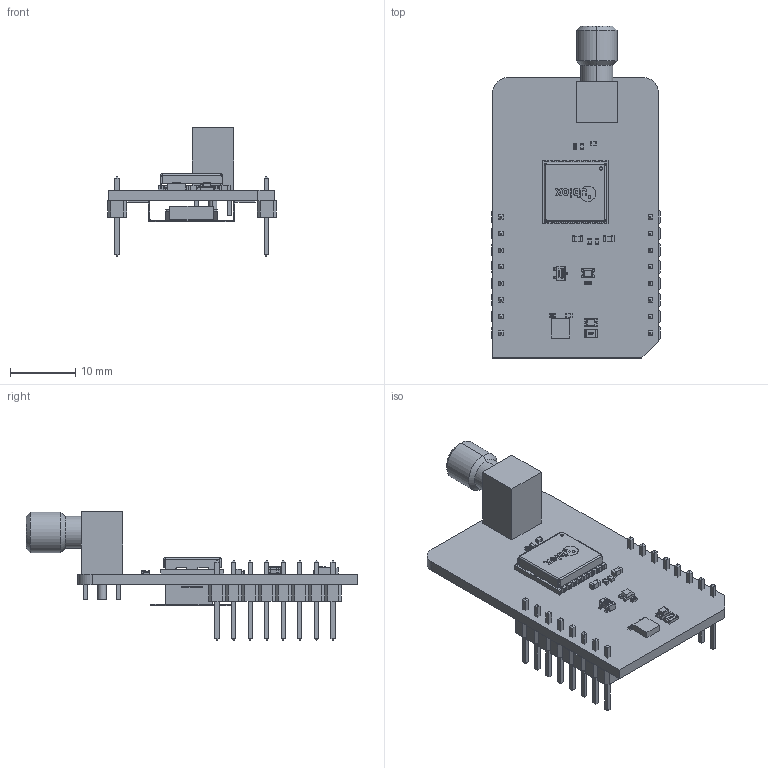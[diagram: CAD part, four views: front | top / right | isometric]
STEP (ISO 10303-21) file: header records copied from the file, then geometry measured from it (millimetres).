
FILE_DESCRIPTION(('Open CASCADE Model'),'2;1');
FILE_NAME('Open CASCADE Shape Model','2025-07-24T12:14:41',('Author'),( 'Open CASCADE'),'Open CASCADE STEP processor 7.5','Open CASCADE 7.5' ,'Unknown');
FILE_SCHEMA(('AUTOMOTIVE_DESIGN { 1 0 10303 214 1 1 1 1 }'));
Length unit declared in the file: millimetre
Products named in the file (44): PCB; Board; Open CASCADE STEP translator 7.5 1.1.1; U2; User Library-MAX-M8 u-blox M8 Concurrent GNSS Module; R4; User Library-R_0402; R3; Q1; SOT323 (SC70-3)-1; User Library-SOT323 (SC70-3)-1_K_X_F6rper_1; User Library-SOT323 (SC70-3)-1_Beschriftung_1; User Library-SOT323 (SC70-3)-1_Pins_1; LD2; CHIPLED-0805-RED; L1; User Library-Chip InductorINDC1005X60N; CN1; User Library-sma ra pcb mount molex; C6; User Library-SMD CAPACITOR0603; C5; User Library-SMD CAPACITOR0402; C4; C3; C2; BAT1; Battery Holder CR1220; U1; 7443375904; Extruded; C1; R2; LD1; led_0805_green; R1; User Library-R_0805; MBD1; Header 1x8; Free-Models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
Assembly tree (53 placements, depth 7):
  PCB
    Board
      Open CASCADE STEP translator 7.5 1.1.1
    U2
      User Library-MAX-M8 u-blox M8 Concurrent GNSS Module
    R4
      User Library-R_0402
    R3
      User Library-R_0402
    Q1
      SOT323 (SC70-3)-1
        User Library-SOT323 (SC70-3)-1_K_X_F6rper_1
        User Library-SOT323 (SC70-3)-1_Beschriftung_1
        User Library-SOT323 (SC70-3)-1_Pins_1  x3
    LD2
      CHIPLED-0805-RED
    L1
      User Library-Chip InductorINDC1005X60N
    CN1
      User Library-sma ra pcb mount molex
    C6
      User Library-SMD CAPACITOR0603
    C5
      User Library-SMD CAPACITOR0402
    C4
      User Library-SMD CAPACITOR0402
    C3
      User Library-SMD CAPACITOR0603
    C2
      User Library-SMD CAPACITOR0402
    BAT1
      Battery Holder CR1220
    U1
      7443375904
        Extruded
    C1
      User Library-SMD CAPACITOR0402
    R2
      User Library-R_0402
    LD1
      led_0805_green
    R1
      User Library-R_0805
    MBD1
      Header 1x8  x2
        PCB
          Free-Models
            1240637040  x2
              User_Library-PinHeaderX5-1_PinHeaderX5_Body_1
              User_Library-PinHeaderX5-1_PinHeaderX5_Pins_1
Bounding box: 25.78 x 50.83 x 19.66 mm (x, y, z)
Volume: 2959.2 mm3; surface area: 5356 mm2
Topology: 117 solids, 118 shells, 2733 faces, 6664 edges, 4162 vertices
Faces by surface type: plane 1762, bspline 562, cylinder 340, sphere 60, torus 5, cone 4
Entity records: 71221 total; most frequent: CARTESIAN_POINT 18433, ORIENTED_EDGE 9402, DIRECTION 7366, EDGE_CURVE 4722, LINE 3328, VECTOR 3328, VERTEX_POINT 3026, FACE_BOUND 2038
